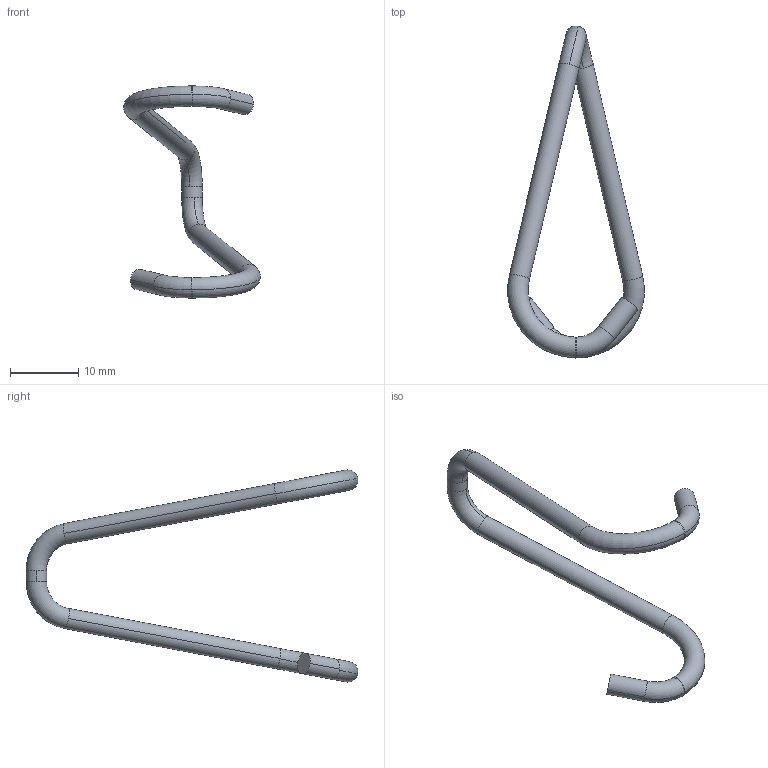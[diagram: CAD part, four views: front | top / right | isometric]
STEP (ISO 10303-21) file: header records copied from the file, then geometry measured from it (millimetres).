
FILE_DESCRIPTION (( 'STEP AP214' ), '1' );
FILE_NAME ('Êðþ÷îê 3.STEP', '2025-06-24T15:11:36', ( '' ), ( '' ), 'SwSTEP 2.0', 'SolidWorks 2022', '' );
FILE_SCHEMA (( 'AUTOMOTIVE_DESIGN' ));
Length unit declared in the file: millimetre
Products named in the file (1): Крючок 3
Bounding box: 19.96 x 48.5 x 31 mm (x, y, z)
Volume: 941.7 mm3; surface area: 1269.7 mm2
Topology: 1 solids, 1 shells, 28 faces, 78 edges, 52 vertices
Faces by surface type: cylinder 14, torus 12, plane 2
Entity records: 980 total; most frequent: DIRECTION 200, CARTESIAN_POINT 159, ORIENTED_EDGE 156, AXIS2_PLACEMENT_3D 93, EDGE_CURVE 78, CIRCLE 64, VERTEX_POINT 52, ADVANCED_FACE 28
